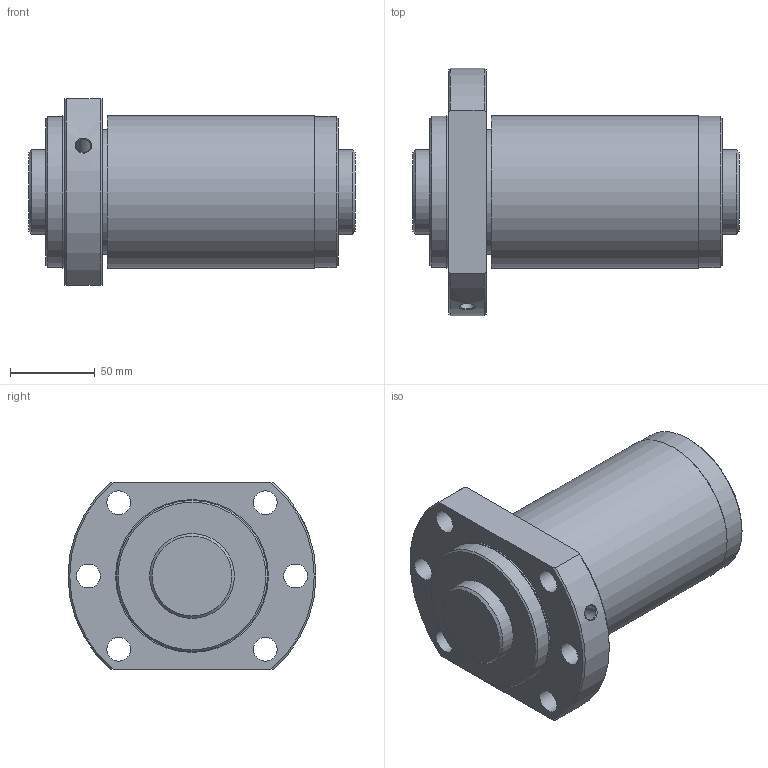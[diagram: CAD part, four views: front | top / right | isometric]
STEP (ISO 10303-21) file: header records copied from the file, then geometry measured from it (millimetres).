
FILE_DESCRIPTION(/* description */ ('STEP AP203'),/* implementation_level */ '2;1');
FILE_NAME(/* name */ 'SBK5036-7.6RRG0+192LC0(0000)',/* time_stamp */ '2024-05-28T11:20:34+02:00',/* author */ ('License CC BY-ND 4.0'),/* organization */ ('CADENAS'),/* preprocessor_version */ 'ST-DEVELOPER v19.3',/* originating_system */ 'PARTsolutions',/* authorisation */ ' ');
FILE_SCHEMA (('CONFIG_CONTROL_DESIGN'));
Length unit declared in the file: millimetre
Products named in the file (3): SBK5036-7.6RRG0+192LC0(0000); NRR000SBK5036-7.60Shaft; NRR000SBK5036-7.6Nut
Assembly tree (2 placements, depth 2):
  SBK5036-7.6RRG0+192LC0(0000)
    NRR000SBK5036-7.60Shaft
    NRR000SBK5036-7.6Nut
Bounding box: 192 x 146 x 110 mm (x, y, z)
Volume: 1276903.6 mm3; surface area: 145974.4 mm2
Topology: 2 solids, 2 shells, 37 faces, 80 edges, 52 vertices
Faces by surface type: cylinder 16, plane 11, cone 10
Full cylindrical faces by diameter (mm): 8.566 x1, 14 x6, 50 x2, 73.62 x1, 89 x2, 90 x2
Entity records: 1020 total; most frequent: CARTESIAN_POINT 183, DIRECTION 168, ORIENTED_EDGE 114, AXIS2_PLACEMENT_3D 80, FACE_BOUND 77, EDGE_LOOP 76, EDGE_CURVE 57, VERTEX_POINT 50
